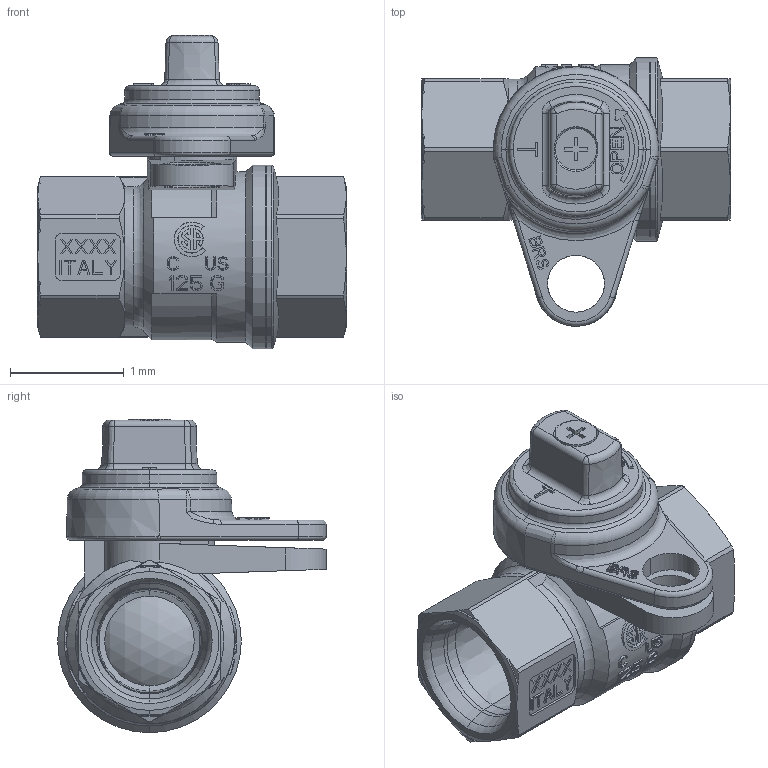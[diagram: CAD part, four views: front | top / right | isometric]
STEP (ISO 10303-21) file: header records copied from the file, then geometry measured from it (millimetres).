
FILE_DESCRIPTION(('Open CASCADE Model'),'2;1');
FILE_NAME('Open CASCADE Shape Model','2022-07-06T09:54:37',('Author'),( 'Open CASCADE'),'Open CASCADE STEP processor 7.3','Open CASCADE 7.3' ,'Unknown');
FILE_SCHEMA(('AUTOMOTIVE_DESIGN { 1 0 10303 214 1 1 1 1 }'));
Length unit declared in the file: millimetre
Products named in the file (19): Open CASCADE STEP translator 7.3 1; Open CASCADE STEP translator 7.3 1.1; Open CASCADE STEP translator 7.3 1.2; Open CASCADE STEP translator 7.3 1.3; Open CASCADE STEP translator 7.3 1.4; Open CASCADE STEP translator 7.3 1.5; Open CASCADE STEP translator 7.3 1.6; Open CASCADE STEP translator 7.3 1.7; Open CASCADE STEP translator 7.3 1.8; Open CASCADE STEP translator 7.3 1.9; Open CASCADE STEP translator 7.3 1.10; Open CASCADE STEP translator 7.3 1.11; Open CASCADE STEP translator 7.3 1.12; Open CASCADE STEP translator 7.3 1.13; Open CASCADE STEP translator 7.3 1.14; Open CASCADE STEP translator 7.3 1.15; Open CASCADE STEP translator 7.3 1.16; Open CASCADE STEP translator 7.3 1.17; Open CASCADE STEP translator 7.3 1.18
Assembly tree (18 placements, depth 2):
  Open CASCADE STEP translator 7.3 1
    Open CASCADE STEP translator 7.3 1.1
    Open CASCADE STEP translator 7.3 1.2
    Open CASCADE STEP translator 7.3 1.3
    Open CASCADE STEP translator 7.3 1.4
    Open CASCADE STEP translator 7.3 1.5
    Open CASCADE STEP translator 7.3 1.6
    Open CASCADE STEP translator 7.3 1.7
    Open CASCADE STEP translator 7.3 1.8
    Open CASCADE STEP translator 7.3 1.9
    Open CASCADE STEP translator 7.3 1.10
    Open CASCADE STEP translator 7.3 1.11
    Open CASCADE STEP translator 7.3 1.12
    Open CASCADE STEP translator 7.3 1.13
    Open CASCADE STEP translator 7.3 1.14
    Open CASCADE STEP translator 7.3 1.15
    Open CASCADE STEP translator 7.3 1.16
    Open CASCADE STEP translator 7.3 1.17
    Open CASCADE STEP translator 7.3 1.18
Bounding box: 2.72 x 2.36 x 2.76 mm (x, y, z)
Volume: 3.5 mm3; surface area: 65.9 mm2
Topology: 12 solids, 18 shells, 1306 faces, 3435 edges, 2211 vertices
Faces by surface type: plane 691, cylinder 207, cone 133, bspline 120, torus 72, extrusion 57, revolution 16, sphere 10
Entity records: 120877 total; most frequent: CARTESIAN_POINT 57879, DIRECTION 9632, ORIENTED_EDGE 6840, PCURVE 6840, DEFINITIONAL_REPRESENTATION 6840, VECTOR 5978, LINE 5923, B_SPLINE_CURVE_WITH_KNOTS 3570
